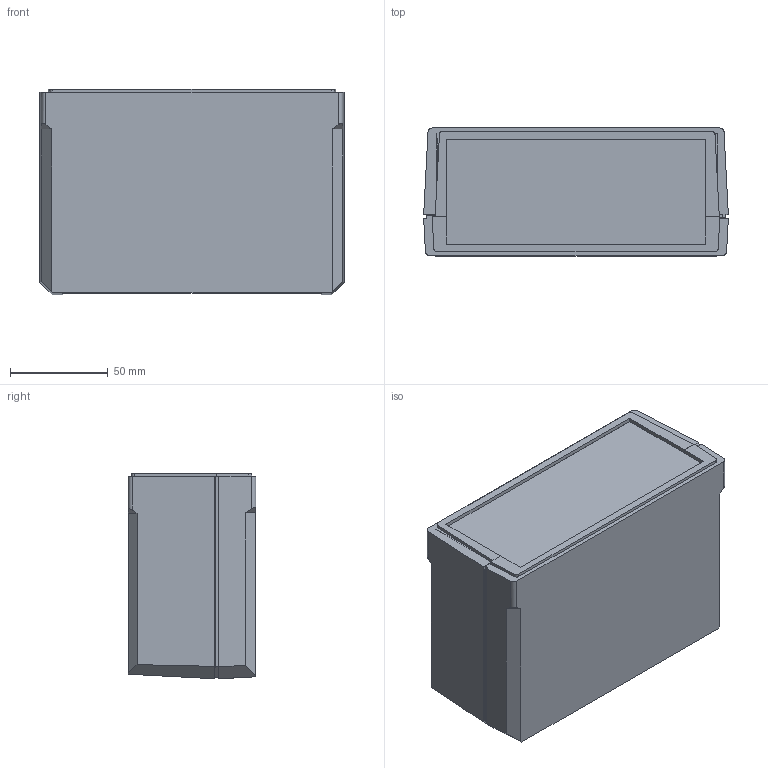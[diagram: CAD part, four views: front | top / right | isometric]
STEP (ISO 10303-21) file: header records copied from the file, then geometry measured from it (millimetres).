
FILE_DESCRIPTION (( 'STEP AP214' ), '1' );
FILE_NAME ('WTS127-TW.STEP', '2020-04-29T22:36:33', ( 'Rudy' ), ( '' ), 'SwSTEP 2.0', 'SolidWorks 2014', '' );
FILE_SCHEMA (( 'AUTOMOTIVE_DESIGN' ));
Length unit declared in the file: inch
Products named in the file (4): WTS 127 Endplate; WTS-deep; WTS-shallow; WTS127-TW
Assembly tree (4 placements, depth 2):
  WTS127-TW
    WTS-shallow
    WTS-deep
    WTS 127 Endplate  x2
Bounding box: 155.5 x 65.18 x 104.9 mm (x, y, z)
Volume: 173019 mm3; surface area: 144747.4 mm2
Topology: 4 solids, 4 shells, 690 faces, 1960 edges, 1294 vertices
Faces by surface type: plane 634, cylinder 56
Entity records: 22022 total; most frequent: CARTESIAN_POINT 3997, ORIENTED_EDGE 3896, DIRECTION 3402, EDGE_CURVE 1948, LINE 1828, VECTOR 1828, VERTEX_POINT 1286, AXIS2_PLACEMENT_3D 787
